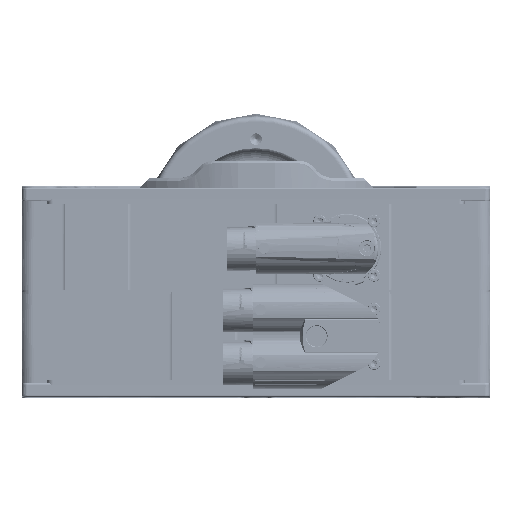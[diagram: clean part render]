
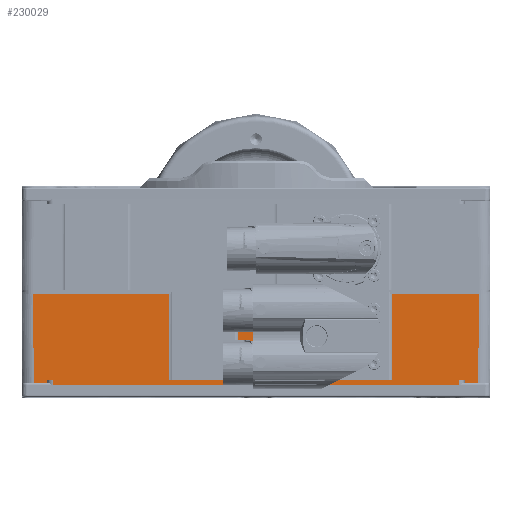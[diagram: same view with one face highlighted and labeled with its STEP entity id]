
A CAD part, left-side view. The second image highlights one B-rep face of the part: STEP entity #230029.
In plain terms, the highlighted planar face has unit normal (-1, 0, 0).
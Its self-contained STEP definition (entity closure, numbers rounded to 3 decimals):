
#9050=PLANE('',#244085);
#16749=FACE_OUTER_BOUND('',#30664,.T.);
#30664=EDGE_LOOP('',(#167696,#167697,#167698,#167699,#167700,#167701,#167702,
#167703,#167704,#167705,#167706,#167707,#167708,#167709,#167710,#167711,
#167712,#167713,#167714,#167715,#167716,#167717));
#59237=LINE('',#321348,#74016);
#59243=LINE('',#321361,#74022);
#59247=LINE('',#321372,#74026);
#59254=LINE('',#321391,#74033);
#67008=LINE('',#373868,#81787);
#67010=LINE('',#373879,#81789);
#67041=LINE('',#374380,#81820);
#67042=LINE('',#374382,#81821);
#67043=LINE('',#374384,#81822);
#67044=LINE('',#374386,#81823);
#67045=LINE('',#374388,#81824);
#67046=LINE('',#374390,#81825);
#67047=LINE('',#374392,#81826);
#67048=LINE('',#374394,#81827);
#67049=LINE('',#374396,#81828);
#67050=LINE('',#374398,#81829);
#67051=LINE('',#374400,#81830);
#67052=LINE('',#374402,#81831);
#67053=LINE('',#374404,#81832);
#67054=LINE('',#374406,#81833);
#67055=LINE('',#374407,#81834);
#67056=LINE('',#374408,#81835);
#74016=VECTOR('',#262469,10.);
#74022=VECTOR('',#262481,10.);
#74026=VECTOR('',#262491,10.);
#74033=VECTOR('',#262510,10.);
#81787=VECTOR('',#279380,10.);
#81789=VECTOR('',#279394,10.);
#81820=VECTOR('',#279473,10.);
#81821=VECTOR('',#279474,10.);
#81822=VECTOR('',#279475,10.);
#81823=VECTOR('',#279476,10.);
#81824=VECTOR('',#279477,2.);
#81825=VECTOR('',#279478,10.);
#81826=VECTOR('',#279479,2.);
#81827=VECTOR('',#279480,10.);
#81828=VECTOR('',#279481,2.);
#81829=VECTOR('',#279482,10.);
#81830=VECTOR('',#279483,2.);
#81831=VECTOR('',#279484,10.);
#81832=VECTOR('',#279485,10.);
#81833=VECTOR('',#279486,10.);
#81834=VECTOR('',#279487,10.);
#81835=VECTOR('',#279488,10.);
#89036=VERTEX_POINT('',#321345);
#89037=VERTEX_POINT('',#321347);
#89041=VERTEX_POINT('',#321359);
#89044=VERTEX_POINT('',#321369);
#89045=VERTEX_POINT('',#321371);
#89051=VERTEX_POINT('',#321389);
#96723=VERTEX_POINT('',#373867);
#96726=VERTEX_POINT('',#373878);
#96803=VERTEX_POINT('',#374379);
#96804=VERTEX_POINT('',#374381);
#96805=VERTEX_POINT('',#374383);
#96806=VERTEX_POINT('',#374385);
#96807=VERTEX_POINT('',#374387);
#96808=VERTEX_POINT('',#374389);
#96809=VERTEX_POINT('',#374391);
#96810=VERTEX_POINT('',#374393);
#96811=VERTEX_POINT('',#374395);
#96812=VERTEX_POINT('',#374397);
#96813=VERTEX_POINT('',#374399);
#96814=VERTEX_POINT('',#374401);
#96815=VERTEX_POINT('',#374403);
#96816=VERTEX_POINT('',#374405);
#109975=EDGE_CURVE('',#89037,#89036,#59237,.T.);
#109982=EDGE_CURVE('',#89036,#89041,#59243,.T.);
#109987=EDGE_CURVE('',#89045,#89044,#59247,.T.);
#109997=EDGE_CURVE('',#89044,#89051,#59254,.T.);
#121898=EDGE_CURVE('',#89037,#96723,#67008,.T.);
#121903=EDGE_CURVE('',#96723,#96726,#67010,.T.);
#121990=EDGE_CURVE('',#96803,#89041,#67041,.T.);
#121991=EDGE_CURVE('',#96804,#96803,#67042,.T.);
#121992=EDGE_CURVE('',#96805,#96804,#67043,.T.);
#121993=EDGE_CURVE('',#96806,#96805,#67044,.T.);
#121994=EDGE_CURVE('',#96807,#96806,#67045,.T.);
#121995=EDGE_CURVE('',#96807,#96808,#67046,.T.);
#121996=EDGE_CURVE('',#96809,#96808,#67047,.T.);
#121997=EDGE_CURVE('',#96810,#96809,#67048,.T.);
#121998=EDGE_CURVE('',#96811,#96810,#67049,.T.);
#121999=EDGE_CURVE('',#96811,#96812,#67050,.T.);
#122000=EDGE_CURVE('',#96813,#96812,#67051,.T.);
#122001=EDGE_CURVE('',#96814,#96813,#67052,.T.);
#122002=EDGE_CURVE('',#96815,#96814,#67053,.T.);
#122003=EDGE_CURVE('',#96816,#96815,#67054,.T.);
#122004=EDGE_CURVE('',#89045,#96816,#67055,.T.);
#122005=EDGE_CURVE('',#96726,#89051,#67056,.T.);
#167696=ORIENTED_EDGE('',*,*,#121898,.F.);
#167697=ORIENTED_EDGE('',*,*,#109975,.T.);
#167698=ORIENTED_EDGE('',*,*,#109982,.T.);
#167699=ORIENTED_EDGE('',*,*,#121990,.F.);
#167700=ORIENTED_EDGE('',*,*,#121991,.F.);
#167701=ORIENTED_EDGE('',*,*,#121992,.F.);
#167702=ORIENTED_EDGE('',*,*,#121993,.F.);
#167703=ORIENTED_EDGE('',*,*,#121994,.F.);
#167704=ORIENTED_EDGE('',*,*,#121995,.T.);
#167705=ORIENTED_EDGE('',*,*,#121996,.F.);
#167706=ORIENTED_EDGE('',*,*,#121997,.F.);
#167707=ORIENTED_EDGE('',*,*,#121998,.F.);
#167708=ORIENTED_EDGE('',*,*,#121999,.T.);
#167709=ORIENTED_EDGE('',*,*,#122000,.F.);
#167710=ORIENTED_EDGE('',*,*,#122001,.F.);
#167711=ORIENTED_EDGE('',*,*,#122002,.F.);
#167712=ORIENTED_EDGE('',*,*,#122003,.F.);
#167713=ORIENTED_EDGE('',*,*,#122004,.F.);
#167714=ORIENTED_EDGE('',*,*,#109987,.T.);
#167715=ORIENTED_EDGE('',*,*,#109997,.T.);
#167716=ORIENTED_EDGE('',*,*,#122005,.F.);
#167717=ORIENTED_EDGE('',*,*,#121903,.F.);
#230029=ADVANCED_FACE('',(#16749),#9050,.T.);
#244085=AXIS2_PLACEMENT_3D('',#374378,#279471,#279472);
#262469=DIRECTION('',(0.,-1.,0.));
#262481=DIRECTION('',(0.,0.,-1.));
#262491=DIRECTION('',(0.,0.,1.));
#262510=DIRECTION('',(0.,-1.,0.));
#279380=DIRECTION('',(0.,0.,-1.));
#279394=DIRECTION('',(0.,1.,0.));
#279471=DIRECTION('center_axis',(-1.,0.,0.));
#279472=DIRECTION('ref_axis',(0.,1.,0.));
#279473=DIRECTION('',(0.,1.,0.));
#279474=DIRECTION('',(0.,0.017,-1.));
#279475=DIRECTION('',(0.,-0.017,-1.));
#279476=DIRECTION('',(0.,-1.,0.));
#279477=DIRECTION('',(0.,0.,1.));
#279478=DIRECTION('',(0.,1.,0.));
#279479=DIRECTION('',(0.,0.,-1.));
#279480=DIRECTION('',(0.,-1.,0.));
#279481=DIRECTION('',(0.,0.,1.));
#279482=DIRECTION('',(0.,1.,0.));
#279483=DIRECTION('',(0.,0.,-1.));
#279484=DIRECTION('',(0.,-1.,0.));
#279485=DIRECTION('',(0.,-0.017,1.));
#279486=DIRECTION('',(0.,0.017,1.));
#279487=DIRECTION('',(0.,1.,0.));
#279488=DIRECTION('',(0.,0.,1.));
#321345=CARTESIAN_POINT('',(-163.5,-76.,-42.));
#321347=CARTESIAN_POINT('',(-163.5,-73.8,-42.));
#321348=CARTESIAN_POINT('',(-163.5,48.396,-42.));
#321359=CARTESIAN_POINT('',(-163.5,-76.,-43.));
#321361=CARTESIAN_POINT('',(-163.5,-76.,-31.75));
#321369=CARTESIAN_POINT('',(-163.5,76.,-42.));
#321371=CARTESIAN_POINT('',(-163.5,76.,-43.));
#321372=CARTESIAN_POINT('',(-163.5,76.,-31.75));
#321389=CARTESIAN_POINT('',(-163.5,73.8,-42.));
#321391=CARTESIAN_POINT('',(-163.5,48.396,-42.));
#373867=CARTESIAN_POINT('',(-163.5,-73.8,-43.78));
#373868=CARTESIAN_POINT('',(-163.5,-73.8,-42.));
#373878=CARTESIAN_POINT('',(-163.5,73.8,-43.78));
#373879=CARTESIAN_POINT('',(-163.5,-75.8,-43.78));
#374378=CARTESIAN_POINT('Origin',(-163.5,-75.8,-42.));
#374379=CARTESIAN_POINT('',(-163.5,-80.598,-43.));
#374380=CARTESIAN_POINT('',(-163.5,49.496,-43.));
#374381=CARTESIAN_POINT('',(-163.5,-80.999,-20.));
#374382=CARTESIAN_POINT('',(-163.5,-80.972,-21.536));
#374383=CARTESIAN_POINT('',(-163.5,-80.838,-10.78));
#374384=CARTESIAN_POINT('',(-163.5,-80.972,-18.464));
#374385=CARTESIAN_POINT('',(-163.5,-49.428,-10.78));
#374386=CARTESIAN_POINT('',(-163.5,50.,-10.78));
#374387=CARTESIAN_POINT('',(-163.5,-49.428,-42.));
#374388=CARTESIAN_POINT('',(-163.5,-49.428,-43.5));
#374389=CARTESIAN_POINT('',(-163.5,-6.672,-42.));
#374390=CARTESIAN_POINT('',(-163.5,-75.8,-42.));
#374391=CARTESIAN_POINT('',(-163.5,-6.672,-10.78));
#374392=CARTESIAN_POINT('',(-163.5,-6.672,-9.5));
#374393=CARTESIAN_POINT('',(-163.5,6.572,-10.78));
#374394=CARTESIAN_POINT('',(-163.5,50.,-10.78));
#374395=CARTESIAN_POINT('',(-163.5,6.572,-42.));
#374396=CARTESIAN_POINT('',(-163.5,6.572,-43.5));
#374397=CARTESIAN_POINT('',(-163.5,31.428,-42.));
#374398=CARTESIAN_POINT('',(-163.5,-75.8,-42.));
#374399=CARTESIAN_POINT('',(-163.5,31.428,-10.78));
#374400=CARTESIAN_POINT('',(-163.5,31.428,-9.5));
#374401=CARTESIAN_POINT('',(-163.5,80.838,-10.78));
#374402=CARTESIAN_POINT('',(-163.5,50.,-10.78));
#374403=CARTESIAN_POINT('',(-163.5,80.999,-20.));
#374404=CARTESIAN_POINT('',(-163.5,81.003,-20.209));
#374405=CARTESIAN_POINT('',(-163.5,80.598,-43.));
#374406=CARTESIAN_POINT('',(-163.5,81.003,-19.791));
#374407=CARTESIAN_POINT('',(-163.5,49.496,-43.));
#374408=CARTESIAN_POINT('',(-163.5,73.8,-42.));
